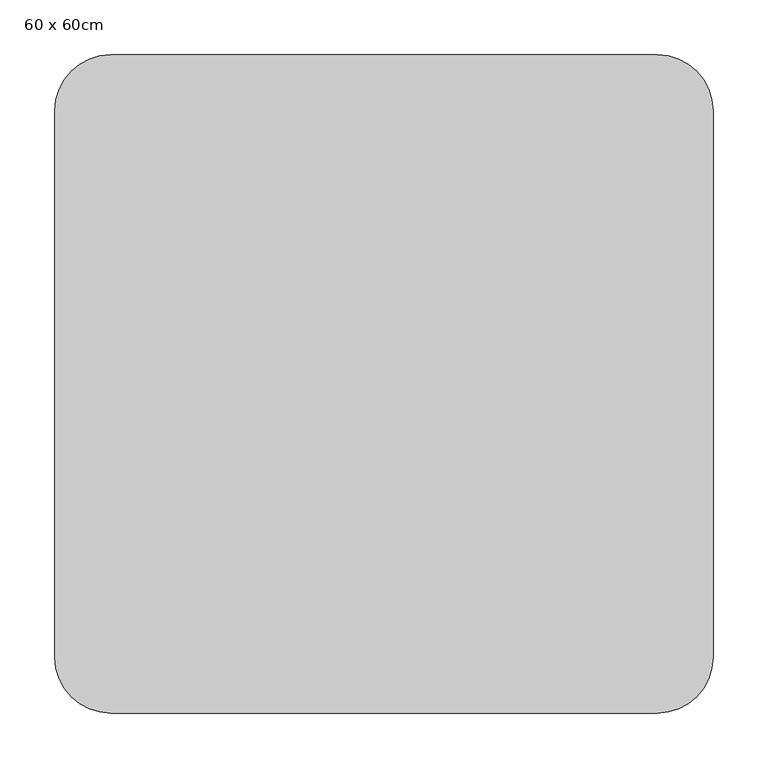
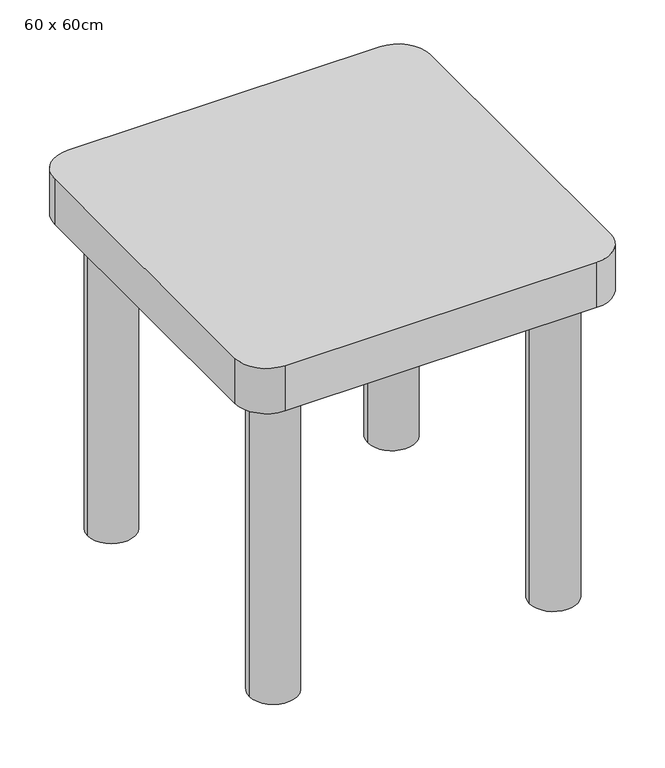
"""IFC4 building model written with IfcOpenShell, lengths in millimetres: furniture geometry, 桌 (3)-方型 : 60 x 60cm."""

from ifc_helpers import new_model, si_unit, point, frame, frame_2d, origin, origin_with_axes, place, context, project, spatial, polyline, circle_curve, trimmed, segment, composite_curve, outline, extrude, source, transform, mapped, element, save


def furniture_60_x_60cm_7ca52646(model_context):
    return source(origin(), model_context, "Body", "SweptSolid", [
        extrude(outline(composite_curve([segment(polyline([(552.9336303, -147.6), (54.5336303, -147.6)]), True, "CONTINUOUS"), segment(trimmed(circle_curve(frame_2d((54.5336303, -96.8)), 50.8), [point((54.5336303, -147.6))], [point((3.7336303, -96.8))], False, "CARTESIAN"), True, "CONTINUOUS"), segment(polyline([(3.7336303, -96.8), (3.7336303, 401.6)]), True, "CONTINUOUS"), segment(trimmed(circle_curve(frame_2d((54.5336303, 401.6)), 50.8), [point((3.7336303, 401.6))], [point((54.5336303, 452.4))], False, "CARTESIAN"), True, "CONTINUOUS"), segment(polyline([(54.5336303, 452.4), (552.9336303, 452.4)]), True, "CONTINUOUS"), segment(trimmed(circle_curve(frame_2d((552.9336303, 401.6)), 50.8), [point((552.9336303, 452.4))], [point((603.7336303, 401.6))], False, "CARTESIAN"), True, "CONTINUOUS"), segment(polyline([(603.7336303, 401.6), (603.7336303, -96.8)]), True, "CONTINUOUS"), segment(trimmed(circle_curve(frame_2d((552.9336303, -96.8)), 50.8), [point((603.7336303, -96.8))], [point((552.9336303, -147.6))], False, "CARTESIAN"), True, "CONTINUOUS")], self_intersect=False)), frame((0.0, 0.0, 523.8), z_axis=(0.0, 0.0, 1.0), x_axis=(1.0, 0.0, 0.0)), (0.0, 0.0, 1.0), 76.2),
        extrude(outline(composite_curve([segment(trimmed(circle_curve(frame_2d((79.9336303, 376.2)), 38.1), [point((41.8336303, 376.2))], [point((118.0336303, 376.2))], False, "CARTESIAN"), True, "CONTINUOUS"), segment(trimmed(circle_curve(frame_2d((79.9336303, 376.2)), 38.1), [point((118.0336303, 376.2))], [point((41.8336303, 376.2))], False, "CARTESIAN"), True, "CONTINUOUS")], self_intersect=False)), origin_with_axes(), (0.0, 0.0, 1.0), 523.8),
        extrude(outline(composite_curve([segment(trimmed(circle_curve(frame_2d((79.9336303, -71.4)), 38.1), [point((41.8336303, -71.4))], [point((118.0336303, -71.4))], False, "CARTESIAN"), True, "CONTINUOUS"), segment(trimmed(circle_curve(frame_2d((79.9336303, -71.4)), 38.1), [point((118.0336303, -71.4))], [point((41.8336303, -71.4))], False, "CARTESIAN"), True, "CONTINUOUS")], self_intersect=False)), origin_with_axes(), (0.0, 0.0, 1.0), 523.8),
        extrude(outline(composite_curve([segment(trimmed(circle_curve(frame_2d((527.5336303, -71.4)), 38.1), [point((489.4336303, -71.4))], [point((565.6336303, -71.4))], False, "CARTESIAN"), True, "CONTINUOUS"), segment(trimmed(circle_curve(frame_2d((527.5336303, -71.4)), 38.1), [point((565.6336303, -71.4))], [point((489.4336303, -71.4))], False, "CARTESIAN"), True, "CONTINUOUS")], self_intersect=False)), origin_with_axes(), (0.0, 0.0, 1.0), 523.8),
        extrude(outline(composite_curve([segment(trimmed(circle_curve(frame_2d((527.5336303, 376.2)), 38.1), [point((489.4336303, 376.2))], [point((565.6336303, 376.2))], False, "CARTESIAN"), True, "CONTINUOUS"), segment(trimmed(circle_curve(frame_2d((527.5336303, 376.2)), 38.1), [point((565.6336303, 376.2))], [point((489.4336303, 376.2))], False, "CARTESIAN"), True, "CONTINUOUS")], self_intersect=False)), origin_with_axes(), (0.0, 0.0, 1.0), 523.8),
    ])


if __name__ == "__main__":
    model = new_model("IFC4")
    model_context = context("Model", 3, world=origin())
    ifc_project = project(units=[si_unit("LENGTHUNIT", "METRE", prefix="MILLI")], contexts=[model_context])
    site = spatial("IfcSite", under=ifc_project)
    building = spatial("IfcBuilding", under=site)
    placement = place(None, origin())
    furniture_60_x_60cm_shape = furniture_60_x_60cm_7ca52646(model_context)
    element("IfcFurniture", 1, ObjectType="桌 (3)-方型 : 60 x 60cm", at=placement, inside=building, context=model_context, shape_type="MappedRepresentation", body=[
        mapped(furniture_60_x_60cm_shape, transform((0.0, 0.0, 0.0), x_axis=(1.0, 0.0, 0.0), y_axis=(0.0, 1.0, 0.0), z_axis=(0.0, 0.0, 1.0))),
    ])
    save(model, "model.ifc")
